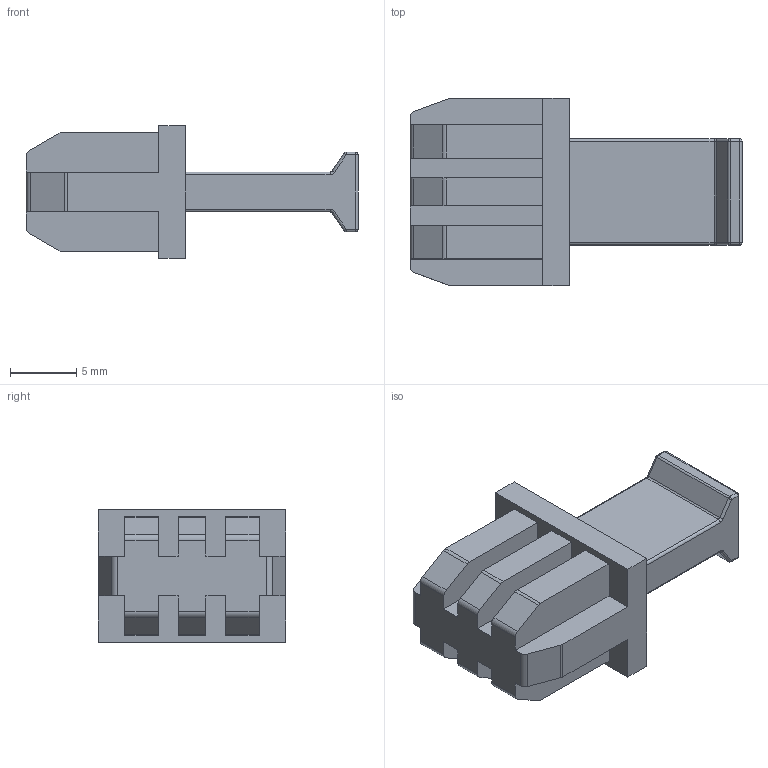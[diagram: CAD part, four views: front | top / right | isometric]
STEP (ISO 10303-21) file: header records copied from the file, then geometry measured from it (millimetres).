
FILE_DESCRIPTION (( 'STEP AP214' ), '1' );
FILE_NAME ('PR5MEC33.STEP', '2024-07-05T05:48:11', ( '' ), ( '' ), 'SwSTEP 2.0', 'SolidWorks 2024', '' );
FILE_SCHEMA (( 'AUTOMOTIVE_DESIGN' ));
Length unit declared in the file: millimetre
Products named in the file (1): PR5MEC33
Bounding box: 25 x 14.1 x 9.95 mm (x, y, z)
Volume: 1435.5 mm3; surface area: 1347.4 mm2
Topology: 1 solids, 1 shells, 99 faces, 262 edges, 160 vertices
Faces by surface type: plane 51, cylinder 36, sphere 8, torus 4
Entity records: 3013 total; most frequent: DIRECTION 532, CARTESIAN_POINT 516, ORIENTED_EDGE 512, EDGE_CURVE 256, LINE 180, VECTOR 180, AXIS2_PLACEMENT_3D 176, VERTEX_POINT 160
